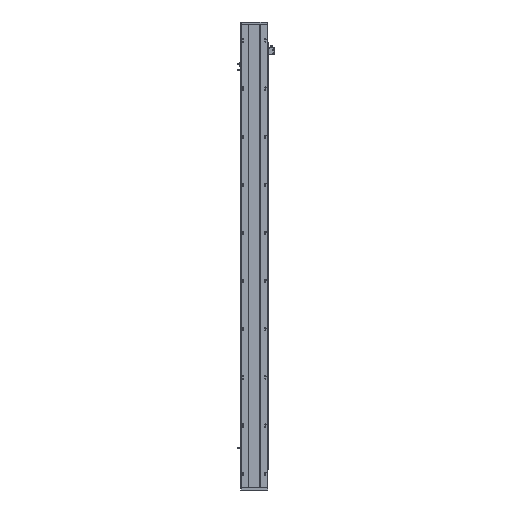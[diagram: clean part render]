
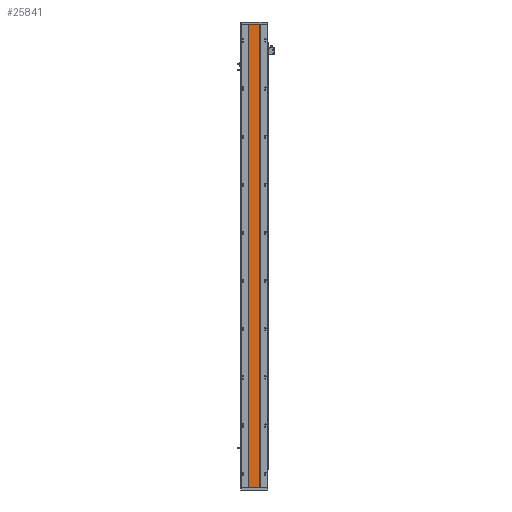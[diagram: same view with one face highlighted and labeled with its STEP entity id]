
A CAD part, front view. The second image highlights one B-rep face of the part: STEP entity #25841.
In plain terms, the highlighted planar face has unit normal (0, -1, 0).
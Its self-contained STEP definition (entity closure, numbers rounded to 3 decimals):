
#135 = EDGE_CURVE ( 'NONE', #18941, #20746, #14900, .T. ) ;
#209 = ORIENTED_EDGE ( 'NONE', *, *, #26009, .T. ) ;
#708 = CARTESIAN_POINT ( 'NONE',  ( 183.063, 115.96, 0. ) ) ;
#1011 = VERTEX_POINT ( 'NONE', #1279 ) ;
#1114 = CARTESIAN_POINT ( 'NONE',  ( 0., 115.96, 2080. ) ) ;
#1279 = CARTESIAN_POINT ( 'NONE',  ( 183.063, 115.96, 2080. ) ) ;
#2103 = EDGE_LOOP ( 'NONE', ( #209, #14083, #17870, #22350 ) ) ;
#2899 = LINE ( 'NONE', #12626, #20914 ) ;
#3384 = VECTOR ( 'NONE', #22414, 1000. ) ;
#3811 = VECTOR ( 'NONE', #12904, 1000. ) ;
#4308 = EDGE_CURVE ( 'NONE', #18941, #1011, #2899, .T. ) ;
#6071 = CARTESIAN_POINT ( 'NONE',  ( 0., 115.96, 0. ) ) ;
#7926 = VECTOR ( 'NONE', #25470, 1000. ) ;
#10385 = DIRECTION ( 'NONE',  ( 1., 0., 0. ) ) ;
#10997 = EDGE_CURVE ( 'NONE', #1011, #25784, #14475, .T. ) ;
#11563 = CARTESIAN_POINT ( 'NONE',  ( 133.07, 115.96, 2080. ) ) ;
#12626 = CARTESIAN_POINT ( 'NONE',  ( 0., 115.96, 2080. ) ) ;
#12904 = DIRECTION ( 'NONE',  ( 0., 0., -1. ) ) ;
#14083 = ORIENTED_EDGE ( 'NONE', *, *, #10997, .F. ) ;
#14475 = LINE ( 'NONE', #27019, #3811 ) ;
#14900 = LINE ( 'NONE', #11563, #7926 ) ;
#14953 = FACE_OUTER_BOUND ( 'NONE', #2103, .T. ) ;
#15013 = DIRECTION ( 'NONE',  ( 0., 1., 0. ) ) ;
#17870 = ORIENTED_EDGE ( 'NONE', *, *, #4308, .F. ) ;
#18201 = LINE ( 'NONE', #6071, #3384 ) ;
#18941 = VERTEX_POINT ( 'NONE', #25020 ) ;
#20517 = AXIS2_PLACEMENT_3D ( 'NONE', #1114, #15013, #29261 ) ;
#20746 = VERTEX_POINT ( 'NONE', #23735 ) ;
#20914 = VECTOR ( 'NONE', #10385, 1000. ) ;
#22203 = PLANE ( 'NONE',  #20517 ) ;
#22350 = ORIENTED_EDGE ( 'NONE', *, *, #135, .T. ) ;
#22414 = DIRECTION ( 'NONE',  ( 1., 0., 0. ) ) ;
#23735 = CARTESIAN_POINT ( 'NONE',  ( 133.07, 115.96, 0. ) ) ;
#25020 = CARTESIAN_POINT ( 'NONE',  ( 133.07, 115.96, 2080. ) ) ;
#25470 = DIRECTION ( 'NONE',  ( 0., 0., -1. ) ) ;
#25784 = VERTEX_POINT ( 'NONE', #708 ) ;
#25841 = ADVANCED_FACE ( 'NONE', ( #14953 ), #22203, .F. ) ;
#26009 = EDGE_CURVE ( 'NONE', #20746, #25784, #18201, .T. ) ;
#27019 = CARTESIAN_POINT ( 'NONE',  ( 183.063, 115.96, 2080. ) ) ;
#29261 = DIRECTION ( 'NONE',  ( -1., 0., 0. ) ) ;
